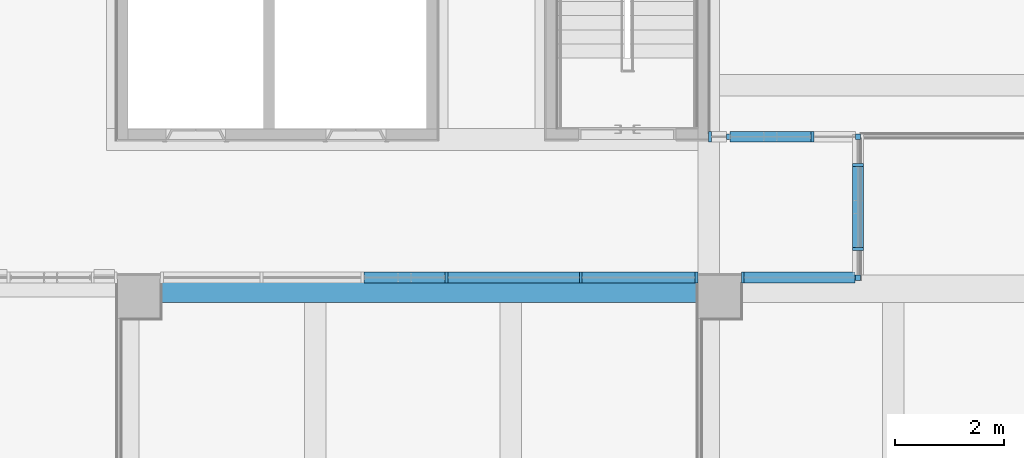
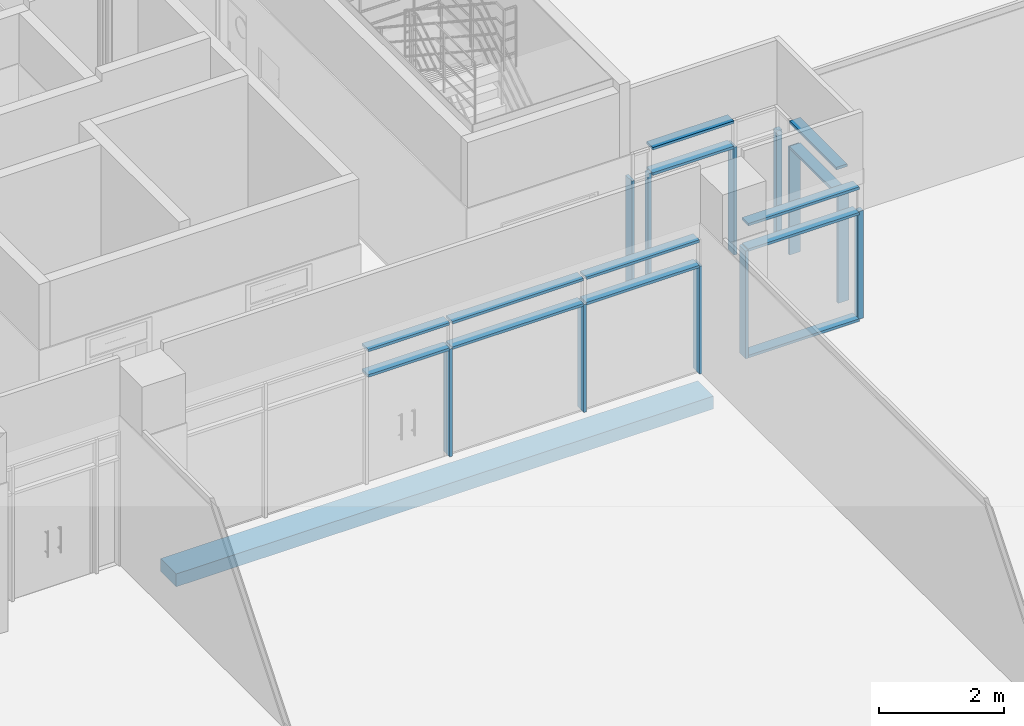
# One storey, part 4 of 82: 25 members, 1 beam, 4 elements without a shape of their own.
"""IFC2X3 building model written with IfcOpenShell, lengths in millimetres."""

from ifc_helpers import new_model, entity, si_unit, converted_unit, derived_unit, direction, frame, frame_2d, origin, origin_2d_with_axis, place, context, subcontext, project, spatial, rectangle, extrude, source, transform, mapped, material, type_object, type_shapes, element, aggregate, save


model = new_model("IFC2X3")

# Units and contexts
model_context = context("Model", 3, precision=0.01, world=origin(), true_north=direction((6.123031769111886e-17, 1.0)))
body_context = subcontext(model_context, "Body", "Model", "MODEL_VIEW")
ifc_project = project(units=[si_unit("LENGTHUNIT", "METRE", prefix="MILLI"), si_unit("AREAUNIT", "SQUARE_METRE"), si_unit("VOLUMEUNIT", "CUBIC_METRE"), converted_unit("PLANEANGLEUNIT", "DEGREE", entity("IfcRatioMeasure", 0.017453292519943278), si_unit("PLANEANGLEUNIT", "RADIAN"), dimensions=[0, 0, 0, 0, 0, 0, 0]), si_unit("MASSUNIT", "GRAM", prefix="KILO"), derived_unit("MASSDENSITYUNIT", [(si_unit("MASSUNIT", "GRAM", prefix="KILO"), 1), (si_unit("LENGTHUNIT", "METRE"), -3)]), derived_unit("MOMENTOFINERTIAUNIT", [(si_unit("LENGTHUNIT", "METRE"), 4)]), si_unit("TIMEUNIT", "SECOND"), si_unit("FREQUENCYUNIT", "HERTZ"), si_unit("THERMODYNAMICTEMPERATUREUNIT", "DEGREE_CELSIUS"), derived_unit("THERMALTRANSMITTANCEUNIT", [(si_unit("MASSUNIT", "GRAM", prefix="KILO"), 1), (si_unit("THERMODYNAMICTEMPERATUREUNIT", "KELVIN"), -1), (si_unit("TIMEUNIT", "SECOND"), -3)]), derived_unit("VOLUMETRICFLOWRATEUNIT", [(si_unit("LENGTHUNIT", "METRE"), 3), (si_unit("TIMEUNIT", "SECOND"), -1)]), derived_unit("MASSFLOWRATEUNIT", [(si_unit("MASSUNIT", "GRAM", prefix="KILO"), 1), (si_unit("TIMEUNIT", "SECOND"), -1)]), derived_unit("ROTATIONALFREQUENCYUNIT", [(si_unit("TIMEUNIT", "SECOND"), -1)]), si_unit("ELECTRICCURRENTUNIT", "AMPERE"), si_unit("ELECTRICVOLTAGEUNIT", "VOLT"), si_unit("POWERUNIT", "WATT"), si_unit("FORCEUNIT", "NEWTON", prefix="KILO"), si_unit("ILLUMINANCEUNIT", "LUX"), si_unit("LUMINOUSFLUXUNIT", "LUMEN"), si_unit("LUMINOUSINTENSITYUNIT", "CANDELA"), derived_unit("USERDEFINED", [(si_unit("MASSUNIT", "GRAM", prefix="KILO"), -1), (si_unit("LENGTHUNIT", "METRE"), -2), (si_unit("TIMEUNIT", "SECOND"), 3), (si_unit("LUMINOUSFLUXUNIT", "LUMEN"), 1)]), derived_unit("SOUNDPOWERUNIT", [(si_unit("MASSUNIT", "GRAM", prefix="KILO"), 1), (si_unit("LENGTHUNIT", "METRE"), 2), (si_unit("TIMEUNIT", "SECOND"), -3)]), derived_unit("SOUNDPRESSUREUNIT", [(si_unit("MASSUNIT", "GRAM", prefix="KILO"), 1), (si_unit("LENGTHUNIT", "METRE"), -1), (si_unit("TIMEUNIT", "SECOND"), -2)]), derived_unit("LINEARVELOCITYUNIT", [(si_unit("LENGTHUNIT", "METRE"), 1), (si_unit("TIMEUNIT", "SECOND"), -1)]), si_unit("PRESSUREUNIT", "PASCAL"), derived_unit("USERDEFINED", [(si_unit("LENGTHUNIT", "METRE"), -2), (si_unit("MASSUNIT", "GRAM", prefix="KILO"), 1), (si_unit("TIMEUNIT", "SECOND"), -2)]), derived_unit("LINEARFORCEUNIT", [(si_unit("MASSUNIT", "GRAM", prefix="KILO"), 1), (si_unit("LENGTHUNIT", "METRE"), 1), (si_unit("TIMEUNIT", "SECOND"), -2), (si_unit("LENGTHUNIT", "METRE"), -1)]), derived_unit("PLANARFORCEUNIT", [(si_unit("MASSUNIT", "GRAM", prefix="KILO"), 1), (si_unit("LENGTHUNIT", "METRE"), 1), (si_unit("TIMEUNIT", "SECOND"), -2), (si_unit("LENGTHUNIT", "METRE"), -2)])], contexts=[model_context])

# Site, building, storey
site_placement = place(None, frame((-14167.972527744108, -657.2125860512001, 0.0)))
site = spatial("IfcSite", under=ifc_project, at=site_placement, Name="Default", CompositionType="ELEMENT")
building_placement = place(site_placement, origin())
building = spatial("IfcBuilding", under=site, at=building_placement, Name="Sample Building", CompositionType="ELEMENT")
storey_placement = place(building_placement, frame((0.0, 0.0, 17500.0)))
storey = spatial("IfcBuildingStorey", under=building, at=storey_placement, Name="지상 5층", CompositionType="ELEMENT", Elevation=17500.00000000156)

# Curtain wall, member
curtain_wall_type = type_object("IfcCurtainWallType", Name="커튼월:CW112-스테인리스 스틸 커튼월", PredefinedType="NOTDEFINED")
curtain_wall_1_placement = place(storey_placement, frame((0.0, 0.0, -17500.0)))
curtain_wall_1 = element("IfcCurtainWall", 1, at=curtain_wall_1_placement, inside=storey, type_object=curtain_wall_type, Name="커튼월:CW112-스테인리스 스틸 커튼월", ObjectType="커튼월:CW112-스테인리스 스틸 커튼월")
ifc_material_1 = material(Name="<Unnamed>")
member_type_1 = type_object("IfcMemberType", Name="직사각형 멀리언:CW200-직사각형 멀리언 50x200mm", PredefinedType="MULLION", material=ifc_material_1)
shared_shape_1 = source(origin(), body_context, "Body", "SweptSolid", [
    extrude(rectangle(XDim=200.0, YDim=50.0, at=origin_2d_with_axis()), frame((-25.0, 0.0, -2100.0), z_axis=(0.0, 0.0, 1.0), x_axis=(0.0, -1.0, 0.0)), (0.0, 0.0, 1.0), 2100.0),
])
type_shapes(member_type_1, [shared_shape_1])
member_1_placement = place(curtain_wall_1_placement, frame((40767.972491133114, 13012.21230798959, 17580.0), z_axis=(0.0, 0.0, -1.0), x_axis=(1.0, 0.0, 0.0)))
member_1 = element("IfcMember", 2, at=member_1_placement, type_object=member_type_1, material=ifc_material_1, Name="직사각형 멀리언:CW200-직사각형 멀리언 50x200mm", ObjectType="직사각형 멀리언:CW200-직사각형 멀리언 50x200mm", context=body_context, shape_type="MappedRepresentation", body=[
    mapped(shared_shape_1, transform((0.0, 0.0, 0.0), scale=1.0)),
])

curtain_wall_2_placement = place(storey_placement, frame((0.0, 0.0, -17500.0)))
curtain_wall_2 = element("IfcCurtainWall", 3, at=curtain_wall_2_placement, inside=storey, type_object=curtain_wall_type, Name="커튼월:CW112-스테인리스 스틸 커튼월", ObjectType="커튼월:CW112-스테인리스 스틸 커튼월")
member_type_2 = type_object("IfcMemberType", Name="직사각형 멀리언:CW200-직사각형 멀리언 50x200mm", PredefinedType="MULLION", material=ifc_material_1)
shared_shape_2 = source(origin(), body_context, "Body", "SweptSolid", [
    extrude(rectangle(XDim=200.0, YDim=50.0, at=origin_2d_with_axis()), frame((-25.0, 0.0, -2100.0), z_axis=(0.0, 0.0, 1.0), x_axis=(0.0, -1.0, 0.0)), (0.0, 0.0, 1.0), 2099.9999999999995),
])
type_shapes(member_type_2, [shared_shape_2])
member_2_placement = place(curtain_wall_2_placement, frame((41567.98999582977, 13012.212383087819, 19680.0), z_axis=(0.0, 0.0, 1.0), x_axis=(-1.0, 0.0, 0.0)))
member_2 = element("IfcMember", 4, at=member_2_placement, type_object=member_type_2, material=ifc_material_1, Name="직사각형 멀리언:CW200-직사각형 멀리언 50x200mm", ObjectType="직사각형 멀리언:CW200-직사각형 멀리언 50x200mm", context=body_context, shape_type="MappedRepresentation", body=[
    mapped(shared_shape_2, transform((0.0, 0.0, 0.0), scale=1.0)),
])

# Member
member_type_3 = type_object("IfcMemberType", Name="직사각형 멀리언:CW200-직사각형 멀리언 50x200mm", PredefinedType="MULLION", material=ifc_material_1)
shared_shape_3 = source(origin(), body_context, "Body", "SweptSolid", [
    extrude(rectangle(XDim=200.0, YDim=50.0, at=origin_2d_with_axis()), frame((-25.0, 0.0, -1500.0), z_axis=(0.0, 0.0, 1.0), x_axis=(0.0, -1.0, 0.0)), (0.0, 0.0, 1.0), 1500.0000000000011),
])
type_shapes(member_type_3, [shared_shape_3])
member_3_placement = place(curtain_wall_1_placement, frame((36112.97249113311, 13012.212307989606, 20200.0), z_axis=(1.0, 0.0, 0.0), x_axis=(0.0, 0.0, 1.0)))
member_3 = element("IfcMember", 5, at=member_3_placement, type_object=member_type_3, material=ifc_material_1, Name="직사각형 멀리언:CW200-직사각형 멀리언 50x200mm", ObjectType="직사각형 멀리언:CW200-직사각형 멀리언 50x200mm", context=body_context, shape_type="MappedRepresentation", body=[
    mapped(shared_shape_3, transform((0.0, 0.0, 0.0), scale=1.0)),
])

# Curtain wall, member
curtain_wall_3_placement = place(storey_placement, frame((0.0, 0.0, -17500.0)))
curtain_wall_3 = element("IfcCurtainWall", 6, at=curtain_wall_3_placement, inside=storey, type_object=curtain_wall_type, Name="커튼월:CW112-스테인리스 스틸 커튼월", ObjectType="커튼월:CW112-스테인리스 스틸 커튼월")
member_4_placement = place(curtain_wall_3_placement, frame((43717.972491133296, 15062.177678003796, 20200.0), z_axis=(0.0, 1.0, 0.0), x_axis=(0.0, 0.0, 1.0)))
member_4 = element("IfcMember", 7, at=member_4_placement, type_object=member_type_3, material=ifc_material_1, Name="직사각형 멀리언:CW200-직사각형 멀리언 50x200mm", ObjectType="직사각형 멀리언:CW200-직사각형 멀리언 50x200mm", context=body_context, shape_type="MappedRepresentation", body=[
    mapped(shared_shape_3, transform((0.0, 0.0, 0.0), scale=1.0)),
])

# Member
member_type_4 = type_object("IfcMemberType", Name="직사각형 멀리언:CW200-직사각형 멀리언 50x200mm", PredefinedType="MULLION", material=ifc_material_1)
shared_shape_4 = source(origin(), body_context, "Body", "SweptSolid", [
    extrude(rectangle(XDim=200.0, YDim=50.0, at=origin_2d_with_axis()), frame((0.0, 0.0, -1500.0), z_axis=(0.0, 0.0, 1.0), x_axis=(0.0, -1.0, 0.0)), (0.0, 0.0, 1.0), 1500.0000000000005),
])
type_shapes(member_type_4, [shared_shape_4])
member_5_placement = place(curtain_wall_1_placement, frame((36112.97249113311, 13012.212307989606, 19680.0), z_axis=(1.0, 0.0, 0.0), x_axis=(0.0, 0.0, 1.0)))
member_5 = element("IfcMember", 8, at=member_5_placement, type_object=member_type_4, material=ifc_material_1, Name="직사각형 멀리언:CW200-직사각형 멀리언 50x200mm", ObjectType="직사각형 멀리언:CW200-직사각형 멀리언 50x200mm", context=body_context, shape_type="MappedRepresentation", body=[
    mapped(shared_shape_4, transform((0.0, 0.0, 0.0), scale=1.0)),
])

member_6_placement = place(curtain_wall_3_placement, frame((43717.972491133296, 15062.177678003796, 19680.0), z_axis=(0.0, 1.0, 0.0), x_axis=(0.0, 0.0, 1.0)))
member_6 = element("IfcMember", 9, at=member_6_placement, type_object=member_type_4, material=ifc_material_1, Name="직사각형 멀리언:CW200-직사각형 멀리언 50x200mm", ObjectType="직사각형 멀리언:CW200-직사각형 멀리언 50x200mm", context=body_context, shape_type="MappedRepresentation", body=[
    mapped(shared_shape_4, transform((0.0, 0.0, 0.0), scale=1.0)),
])

member_type_5 = type_object("IfcMemberType", Name="직사각형 멀리언:CW200-직사각형 멀리언 50x200mm", PredefinedType="MULLION", material=ifc_material_1)
shared_shape_5 = source(origin(), body_context, "Body", "SweptSolid", [
    extrude(rectangle(XDim=200.0, YDim=50.0, at=origin_2d_with_axis()), frame((0.0, 0.0, -2100.0), z_axis=(0.0, 0.0, 1.0), x_axis=(0.0, -1.0, 0.0)), (0.0, 0.0, 1.0), 2100.0),
])
type_shapes(member_type_5, [shared_shape_5])
member_7_placement = place(curtain_wall_1_placement, frame((36137.972491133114, 13012.212307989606, 17580.0), z_axis=(0.0, 0.0, -1.0), x_axis=(1.0, 0.0, 0.0)))
member_7 = element("IfcMember", 10, at=member_7_placement, type_object=member_type_5, material=ifc_material_1, Name="직사각형 멀리언:CW200-직사각형 멀리언 50x200mm", ObjectType="직사각형 멀리언:CW200-직사각형 멀리언 50x200mm", context=body_context, shape_type="MappedRepresentation", body=[
    mapped(shared_shape_5, transform((0.0, 0.0, 0.0), scale=1.0)),
])

member_8_placement = place(curtain_wall_1_placement, frame((38607.972491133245, 13012.212307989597, 17580.0), z_axis=(0.0, 0.0, -1.0), x_axis=(1.0, 0.0, 0.0)))
member_8 = element("IfcMember", 11, at=member_8_placement, type_object=member_type_5, material=ifc_material_1, Name="직사각형 멀리언:CW200-직사각형 멀리언 50x200mm", ObjectType="직사각형 멀리언:CW200-직사각형 멀리언 50x200mm", context=body_context, shape_type="MappedRepresentation", body=[
    mapped(shared_shape_5, transform((0.0, 0.0, 0.0), scale=1.0)),
])

member_9_placement = place(curtain_wall_3_placement, frame((43717.972491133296, 13537.177678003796, 17580.0), z_axis=(0.0, 0.0, -1.0), x_axis=(0.0, 1.0, 0.0)))
member_9 = element("IfcMember", 12, at=member_9_placement, type_object=member_type_5, material=ifc_material_1, Name="직사각형 멀리언:CW200-직사각형 멀리언 50x200mm", ObjectType="직사각형 멀리언:CW200-직사각형 멀리언 50x200mm", context=body_context, shape_type="MappedRepresentation", body=[
    mapped(shared_shape_5, transform((0.0, 0.0, 0.0), scale=1.0)),
])

member_10_placement = place(curtain_wall_3_placement, frame((43717.972491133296, 15087.177678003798, 17580.0), z_axis=(0.0, 0.0, -1.0), x_axis=(0.0, 1.0, 0.0)))
member_10 = element("IfcMember", 13, at=member_10_placement, type_object=member_type_5, material=ifc_material_1, Name="직사각형 멀리언:CW200-직사각형 멀리언 50x200mm", ObjectType="직사각형 멀리언:CW200-직사각형 멀리언 50x200mm", context=body_context, shape_type="MappedRepresentation", body=[
    mapped(shared_shape_5, transform((0.0, 0.0, 0.0), scale=1.0)),
])

member_type_6 = type_object("IfcMemberType", Name="직사각형 멀리언:CW200-직사각형 멀리언 100 x 100mm", PredefinedType="MULLION", material=ifc_material_1)
shared_shape_6 = source(origin(), body_context, "Body", "SweptSolid", [
    extrude(rectangle(XDim=100.00000000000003, YDim=100.0, at=origin_2d_with_axis()), frame((-50.0, 0.0, -2100.0), z_axis=(0.0, 0.0, 1.0), x_axis=(0.0, -1.0, 0.0)), (0.0, 0.0, 1.0), 2100.0),
])
type_shapes(member_type_6, [shared_shape_6])
member_11_placement = place(curtain_wall_2_placement, frame((43762.98999582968, 13012.212383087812, 17580.0), z_axis=(0.0, 0.0, -1.0), x_axis=(1.0, 0.0, 0.0)))
member_11 = element("IfcMember", 14, at=member_11_placement, type_object=member_type_6, material=ifc_material_1, Name="직사각형 멀리언:CW200-직사각형 멀리언 100 x 100mm", ObjectType="직사각형 멀리언:CW200-직사각형 멀리언 100 x 100mm", context=body_context, shape_type="MappedRepresentation", body=[
    mapped(shared_shape_6, transform((0.0, 0.0, 0.0), scale=1.0)),
])

member_type_7 = type_object("IfcMemberType", Name="직사각형 멀리언:CW200-직사각형 멀리언 50x200mm", PredefinedType="MULLION", material=ifc_material_1)
shared_shape_7 = source(origin(), body_context, "Body", "SweptSolid", [
    extrude(rectangle(XDim=200.0, YDim=50.0, at=origin_2d_with_axis()), frame((-25.0, 0.0, -2085.0), z_axis=(0.0, 0.0, 1.0), x_axis=(0.0, -1.0, 0.0)), (0.0, 0.0, 1.0), 2084.9999999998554),
])
type_shapes(member_type_7, [shared_shape_7])
member_12_placement = place(curtain_wall_1_placement, frame((40717.972491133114, 13012.21230798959, 20200.0), z_axis=(1.0, 0.0, 0.0), x_axis=(0.0, 0.0, 1.0)))
member_12 = element("IfcMember", 15, at=member_12_placement, type_object=member_type_7, material=ifc_material_1, Name="직사각형 멀리언:CW200-직사각형 멀리언 50x200mm", ObjectType="직사각형 멀리언:CW200-직사각형 멀리언 50x200mm", context=body_context, shape_type="MappedRepresentation", body=[
    mapped(shared_shape_7, transform((0.0, 0.0, 0.0), scale=1.0)),
])

member_type_8 = type_object("IfcMemberType", Name="직사각형 멀리언:CW200-직사각형 멀리언 50x200mm", PredefinedType="MULLION", material=ifc_material_1)
shared_shape_8 = source(origin(), body_context, "Body", "SweptSolid", [
    extrude(rectangle(XDim=200.0, YDim=50.0, at=origin_2d_with_axis()), frame((0.0, 0.0, -2420.0), z_axis=(0.0, 0.0, 1.0), x_axis=(0.0, -1.0, 0.0)), (0.0, 0.0, 1.0), 2420.0000000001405),
])
type_shapes(member_type_8, [shared_shape_8])
member_13_placement = place(curtain_wall_1_placement, frame((38582.972491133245, 13012.212307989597, 19680.0), z_axis=(1.0, 0.0, 0.0), x_axis=(0.0, 0.0, 1.0)))
member_13 = element("IfcMember", 16, at=member_13_placement, type_object=member_type_8, material=ifc_material_1, Name="직사각형 멀리언:CW200-직사각형 멀리언 50x200mm", ObjectType="직사각형 멀리언:CW200-직사각형 멀리언 50x200mm", context=body_context, shape_type="MappedRepresentation", body=[
    mapped(shared_shape_8, transform((0.0, 0.0, 0.0), scale=1.0)),
])

member_type_9 = type_object("IfcMemberType", Name="직사각형 멀리언:CW200-직사각형 멀리언 50x200mm", PredefinedType="MULLION", material=ifc_material_1)
shared_shape_9 = source(origin(), body_context, "Body", "SweptSolid", [
    extrude(rectangle(XDim=200.0, YDim=50.0, at=origin_2d_with_axis()), frame((-25.0, 0.0, -2420.0), z_axis=(0.0, 0.0, 1.0), x_axis=(0.0, -1.0, 0.0)), (0.0, 0.0, 1.0), 2420.0000000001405),
])
type_shapes(member_type_9, [shared_shape_9])
member_14_placement = place(curtain_wall_1_placement, frame((38582.972491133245, 13012.212307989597, 20200.0), z_axis=(1.0, 0.0, 0.0), x_axis=(0.0, 0.0, 1.0)))
member_14 = element("IfcMember", 17, at=member_14_placement, type_object=member_type_9, material=ifc_material_1, Name="직사각형 멀리언:CW200-직사각형 멀리언 50x200mm", ObjectType="직사각형 멀리언:CW200-직사각형 멀리언 50x200mm", context=body_context, shape_type="MappedRepresentation", body=[
    mapped(shared_shape_9, transform((0.0, 0.0, 0.0), scale=1.0)),
])

member_type_10 = type_object("IfcMemberType", Name="직사각형 멀리언:CW200-직사각형 멀리언 50x200mm", PredefinedType="MULLION", material=ifc_material_1)
shared_shape_10 = source(origin(), body_context, "Body", "SweptSolid", [
    extrude(rectangle(XDim=200.0, YDim=50.0, at=origin_2d_with_axis()), frame((0.0, 0.0, -2085.0), z_axis=(0.0, 0.0, 1.0), x_axis=(0.0, -1.0, 0.0)), (0.0, 0.0, 1.0), 2084.9999999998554),
])
type_shapes(member_type_10, [shared_shape_10])
member_15_placement = place(curtain_wall_1_placement, frame((40717.972491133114, 13012.21230798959, 19680.0), z_axis=(1.0, 0.0, 0.0), x_axis=(0.0, 0.0, 1.0)))
member_15 = element("IfcMember", 18, at=member_15_placement, type_object=member_type_10, material=ifc_material_1, Name="직사각형 멀리언:CW200-직사각형 멀리언 50x200mm", ObjectType="직사각형 멀리언:CW200-직사각형 멀리언 50x200mm", context=body_context, shape_type="MappedRepresentation", body=[
    mapped(shared_shape_10, transform((0.0, 0.0, 0.0), scale=1.0)),
])

aggregate(curtain_wall_1, [member_12, member_1, member_5, member_3, member_13, member_7, member_14, member_15, member_8])

# Curtain wall, members
curtain_wall_4_placement = place(storey_placement, frame((0.0, 0.0, -17500.0)))
curtain_wall_4 = element("IfcCurtainWall", 19, at=curtain_wall_4_placement, inside=storey, type_object=curtain_wall_type, Name="커튼월:CW112-스테인리스 스틸 커튼월", ObjectType="커튼월:CW112-스테인리스 스틸 커튼월")
member_type_11 = type_object("IfcMemberType", Name="직사각형 멀리언:CW200-직사각형 멀리언 50x200mm", PredefinedType="MULLION", material=ifc_material_1)
shared_shape_11 = source(origin(), body_context, "Body", "SweptSolid", [
    extrude(rectangle(XDim=200.0, YDim=50.0, at=origin_2d_with_axis()), frame((-25.0, 0.0, -2100.0), z_axis=(0.0, 0.0, 1.0), x_axis=(0.0, -1.0, 0.0)), (0.0, 0.0, 1.0), 2100.0),
])
type_shapes(member_type_11, [shared_shape_11])
member_16_placement = place(curtain_wall_4_placement, frame((40967.963798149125, 15607.177678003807, 17580.0), z_axis=(0.0, 0.0, -1.0), x_axis=(-1.0, 0.0, 0.0)))
member_16 = element("IfcMember", 20, at=member_16_placement, type_object=member_type_11, material=ifc_material_1, Name="직사각형 멀리언:CW200-직사각형 멀리언 50x200mm", ObjectType="직사각형 멀리언:CW200-직사각형 멀리언 50x200mm", context=body_context, shape_type="MappedRepresentation", body=[
    mapped(shared_shape_11, transform((0.0, 0.0, 0.0), scale=1.0)),
])
member_type_12 = type_object("IfcMemberType", Name="직사각형 멀리언:CW200-직사각형 멀리언 50x200mm", PredefinedType="MULLION", material=ifc_material_1)
shared_shape_12 = source(origin(), body_context, "Body", "SweptSolid", [
    extrude(rectangle(XDim=200.0, YDim=50.0, at=origin_2d_with_axis()), frame((0.0, 0.0, -1495.0), z_axis=(0.0, 0.0, 1.0), x_axis=(0.0, -1.0, 0.0)), (0.0, 0.0, 1.0), 1495.0000000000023),
])
type_shapes(member_type_12, [shared_shape_12])
member_17_placement = place(curtain_wall_4_placement, frame((41357.972491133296, 15607.177678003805, 19680.0), z_axis=(-1.0, 0.0, 0.0), x_axis=(0.0, 0.0, 1.0)))
member_17 = element("IfcMember", 21, at=member_17_placement, type_object=member_type_12, material=ifc_material_1, Name="직사각형 멀리언:CW200-직사각형 멀리언 50x200mm", ObjectType="직사각형 멀리언:CW200-직사각형 멀리언 50x200mm", context=body_context, shape_type="MappedRepresentation", body=[
    mapped(shared_shape_12, transform((0.0, 0.0, 0.0), scale=1.0)),
])
member_type_13 = type_object("IfcMemberType", Name="직사각형 멀리언:CW200-직사각형 멀리언 50x200mm", PredefinedType="MULLION", material=ifc_material_1)
shared_shape_13 = source(origin(), body_context, "Body", "SweptSolid", [
    extrude(rectangle(XDim=200.0, YDim=50.0, at=origin_2d_with_axis()), frame((-25.0, 0.0, -1495.0), z_axis=(0.0, 0.0, 1.0), x_axis=(0.0, -1.0, 0.0)), (0.0, 0.0, 1.0), 1495.0000000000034),
])
type_shapes(member_type_13, [shared_shape_13])
member_18_placement = place(curtain_wall_4_placement, frame((41357.972491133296, 15607.177678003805, 20200.0), z_axis=(-1.0, 0.0, 0.0), x_axis=(0.0, 0.0, 1.0)))
member_18 = element("IfcMember", 22, at=member_18_placement, type_object=member_type_13, material=ifc_material_1, Name="직사각형 멀리언:CW200-직사각형 멀리언 50x200mm", ObjectType="직사각형 멀리언:CW200-직사각형 멀리언 50x200mm", context=body_context, shape_type="MappedRepresentation", body=[
    mapped(shared_shape_13, transform((0.0, 0.0, 0.0), scale=1.0)),
])
member_type_14 = type_object("IfcMemberType", Name="직사각형 멀리언:CW200-직사각형 멀리언 60 x 100mm", PredefinedType="MULLION", material=ifc_material_1)
shared_shape_14 = source(origin(), body_context, "Body", "SweptSolid", [
    extrude(rectangle(XDim=100.0, YDim=60.0, at=origin_2d_with_axis()), frame((0.0, 0.0, -2100.0), z_axis=(0.0, 0.0, 1.0), x_axis=(0.0, -1.0, 0.0)), (0.0, 0.0, 1.0), 2100.0),
])
type_shapes(member_type_14, [shared_shape_14])
member_19_placement = place(curtain_wall_4_placement, frame((41327.972491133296, 15607.177678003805, 17580.0), z_axis=(0.0, 0.0, -1.0), x_axis=(-1.0, 0.0, 0.0)))
member_19 = element("IfcMember", 23, at=member_19_placement, type_object=member_type_14, material=ifc_material_1, Name="직사각형 멀리언:CW200-직사각형 멀리언 60 x 100mm", ObjectType="직사각형 멀리언:CW200-직사각형 멀리언 60 x 100mm", context=body_context, shape_type="MappedRepresentation", body=[
    mapped(shared_shape_14, transform((0.0, 0.0, 0.0), scale=1.0)),
])

# Member
member_type_15 = type_object("IfcMemberType", Name="직사각형 멀리언:CW200-직사각형 멀리언 100 x 100mm", PredefinedType="MULLION", material=ifc_material_1)
shared_shape_15 = source(origin(), body_context, "Body", "SweptSolid", [
    extrude(rectangle(XDim=100.00000000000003, YDim=100.0, at=origin_2d_with_axis()), frame((-50.0, 0.0, -2100.0), z_axis=(0.0, 0.0, 1.0), x_axis=(0.0, -1.0, 0.0)), (0.0, 0.0, 1.0), 2100.0000000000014),
])
type_shapes(member_type_15, [shared_shape_15])
member_20_placement = place(curtain_wall_3_placement, frame((43717.972491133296, 12961.152287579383, 19680.0), z_axis=(0.0, 0.0, 1.0), x_axis=(0.0, -1.0, 0.0)))
member_20 = element("IfcMember", 24, at=member_20_placement, type_object=member_type_15, material=ifc_material_1, Name="직사각형 멀리언:CW200-직사각형 멀리언 100 x 100mm", ObjectType="직사각형 멀리언:CW200-직사각형 멀리언 100 x 100mm", context=body_context, shape_type="MappedRepresentation", body=[
    mapped(shared_shape_15, transform((0.0, 0.0, 0.0), scale=1.0)),
])

aggregate(curtain_wall_3, [member_9, member_20, member_6, member_4, member_10])

member_type_16 = type_object("IfcMemberType", Name="직사각형 멀리언:CW200-직사각형 멀리언 100 x 100mm", PredefinedType="MULLION", material=ifc_material_1)
shared_shape_16 = source(origin(), body_context, "Body", "SweptSolid", [
    extrude(rectangle(XDim=100.0, YDim=100.0, at=origin_2d_with_axis()), frame((-50.0, 0.0, -2100.0), z_axis=(0.0, 0.0, 1.0), x_axis=(0.0, -1.0, 0.0)), (0.0, 0.0, 1.0), 2099.999999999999),
])
type_shapes(member_type_16, [shared_shape_16])
member_21_placement = place(curtain_wall_4_placement, frame((43767.963798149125, 15607.177678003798, 19680.0)))
member_21 = element("IfcMember", 25, at=member_21_placement, type_object=member_type_16, material=ifc_material_1, Name="직사각형 멀리언:CW200-직사각형 멀리언 100 x 100mm", ObjectType="직사각형 멀리언:CW200-직사각형 멀리언 100 x 100mm", context=body_context, shape_type="MappedRepresentation", body=[
    mapped(shared_shape_16, transform((0.0, 0.0, 0.0), scale=1.0)),
])

member_type_17 = type_object("IfcMemberType", Name="직사각형 멀리언:CW200-직사각형 멀리언 50x200mm", PredefinedType="MULLION", material=ifc_material_1)
shared_shape_17 = source(origin(), body_context, "Body", "SweptSolid", [
    extrude(rectangle(XDim=200.0, YDim=50.0, at=origin_2d_with_axis()), frame((0.0, 0.0, -2100.0), z_axis=(0.0, 0.0, 1.0), x_axis=(0.0, -1.0, 0.0)), (0.0, 0.0, 1.0), 2099.999999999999),
])
type_shapes(member_type_17, [shared_shape_17])
member_22_placement = place(curtain_wall_4_placement, frame((42877.972491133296, 15607.1776780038, 17580.0), z_axis=(0.0, 0.0, -1.0), x_axis=(-1.0, 0.0, 0.0)))
member_22 = element("IfcMember", 26, at=member_22_placement, type_object=member_type_17, material=ifc_material_1, Name="직사각형 멀리언:CW200-직사각형 멀리언 50x200mm", ObjectType="직사각형 멀리언:CW200-직사각형 멀리언 50x200mm", context=body_context, shape_type="MappedRepresentation", body=[
    mapped(shared_shape_17, transform((0.0, 0.0, 0.0), scale=1.0)),
])

aggregate(curtain_wall_4, [member_16, member_21, member_17, member_22, member_18, member_19])

member_type_18 = type_object("IfcMemberType", Name="직사각형 멀리언:CW200-직사각형 멀리언 50x200mm", PredefinedType="MULLION", material=ifc_material_1)
shared_shape_18 = source(origin(), body_context, "Body", "SweptSolid", [
    extrude(rectangle(XDim=200.0, YDim=50.0, at=origin_2d_with_axis()), frame((-25.0, 0.0, -2045.0), z_axis=(0.0, 0.0, 1.0), x_axis=(0.0, -1.0, 0.0)), (0.0, 0.0, 1.0), 2044.9999999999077),
])
type_shapes(member_type_18, [shared_shape_18])
member_23_placement = place(curtain_wall_2_placement, frame((43662.989995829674, 13012.212383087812, 20200.0), z_axis=(1.0, 0.0, 0.0), x_axis=(0.0, 0.0, 1.0)))
member_23 = element("IfcMember", 27, at=member_23_placement, type_object=member_type_18, material=ifc_material_1, Name="직사각형 멀리언:CW200-직사각형 멀리언 50x200mm", ObjectType="직사각형 멀리언:CW200-직사각형 멀리언 50x200mm", context=body_context, shape_type="MappedRepresentation", body=[
    mapped(shared_shape_18, transform((0.0, 0.0, 0.0), scale=1.0)),
])

member_type_19 = type_object("IfcMemberType", Name="직사각형 멀리언:CW200-직사각형 멀리언 50x200mm", PredefinedType="MULLION", material=ifc_material_1)
shared_shape_19 = source(origin(), body_context, "Body", "SweptSolid", [
    extrude(rectangle(XDim=200.0, YDim=50.0, at=origin_2d_with_axis()), frame((-25.0, 0.0, -2045.0), z_axis=(0.0, 0.0, 1.0), x_axis=(0.0, -1.0, 0.0)), (0.0, 0.0, 1.0), 2044.9999999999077),
])
type_shapes(member_type_19, [shared_shape_19])
member_24_placement = place(curtain_wall_2_placement, frame((41617.98999582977, 13012.212383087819, 17580.0), z_axis=(-1.0, 0.0, 0.0), x_axis=(0.0, 0.0, -1.0)))
member_24 = element("IfcMember", 28, at=member_24_placement, type_object=member_type_19, material=ifc_material_1, Name="직사각형 멀리언:CW200-직사각형 멀리언 50x200mm", ObjectType="직사각형 멀리언:CW200-직사각형 멀리언 50x200mm", context=body_context, shape_type="MappedRepresentation", body=[
    mapped(shared_shape_19, transform((0.0, 0.0, 0.0), scale=1.0)),
])

member_type_20 = type_object("IfcMemberType", Name="직사각형 멀리언:CW200-직사각형 멀리언 50x200mm", PredefinedType="MULLION", material=ifc_material_1)
shared_shape_20 = source(origin(), body_context, "Body", "SweptSolid", [
    extrude(rectangle(XDim=200.0, YDim=50.0, at=origin_2d_with_axis()), frame((0.0, 0.0, -2045.0), z_axis=(0.0, 0.0, 1.0), x_axis=(0.0, -1.0, 0.0)), (0.0, 0.0, 1.0), 2044.9999999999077),
])
type_shapes(member_type_20, [shared_shape_20])
member_25_placement = place(curtain_wall_2_placement, frame((43662.989995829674, 13012.212383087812, 19680.0), z_axis=(1.0, 0.0, 0.0), x_axis=(0.0, 0.0, 1.0)))
member_25 = element("IfcMember", 29, at=member_25_placement, type_object=member_type_20, material=ifc_material_1, Name="직사각형 멀리언:CW200-직사각형 멀리언 50x200mm", ObjectType="직사각형 멀리언:CW200-직사각형 멀리언 50x200mm", context=body_context, shape_type="MappedRepresentation", body=[
    mapped(shared_shape_20, transform((0.0, 0.0, 0.0), scale=1.0)),
])

aggregate(curtain_wall_2, [member_23, member_24, member_11, member_2, member_25])

# Beam
ifc_material_2 = material(Name="KBIMS-콘크리트")
beam_type = type_object("IfcBeamType", Name="BM111-철근콘크리트구조 보:BM110-철근 콘크리트구조 보_500 x 400_2-10G9", PredefinedType="NOTDEFINED")
beam_placement = place(storey_placement, frame((30867.955114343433, 12807.212604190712, 0.0)))
element("IfcBeam", 30, at=beam_placement, inside=storey, type_object=beam_type, material=ifc_material_2, Name="BM111-철근콘크리트구조 보:BM110-철근 콘크리트구조 보_500 x 400_2-10G9", ObjectType="BM111-철근콘크리트구조 보:BM110-철근 콘크리트구조 보_500 x 400_2-10G9", context=body_context, shape_type="SweptSolid", body=[
    extrude(rectangle(XDim=250.00000000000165, YDim=500.0000000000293, at=frame_2d((-1.0800249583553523e-12, -1.949729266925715e-11), x_axis=(1.0, 0.0))), frame((0.0, 0.0, -275.0), z_axis=(1.0, 0.0, 0.0), x_axis=(0.0, 0.0, -1.0)), (0.0, 0.0, 1.0), 9900.000027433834),
])

save(model, "model.ifc")
